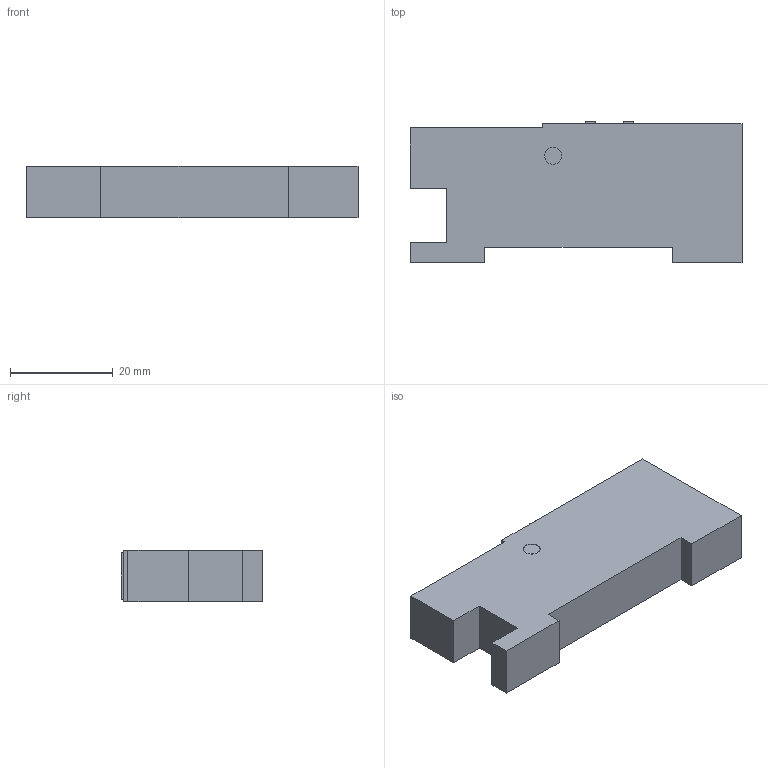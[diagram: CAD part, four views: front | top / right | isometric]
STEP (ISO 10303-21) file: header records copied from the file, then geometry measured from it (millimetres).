
FILE_DESCRIPTION (( 'STEP AP203' ), '1' );
FILE_NAME ('FX-CH.STEP', '2005-10-27T00:55:57', ( '' ), ( '' ), 'SwSTEP 2.0', 'SolidWorks 2004073', '' );
FILE_SCHEMA (( 'CONFIG_CONTROL_DESIGN' ));
Length unit declared in the file: millimetre
Products named in the file (1): FX-CH
Bounding box: 64.5 x 27.5 x 10 mm (x, y, z)
Volume: 15384.5 mm3; surface area: 5135.7 mm2
Topology: 1 solids, 1 shells, 54 faces, 132 edges, 88 vertices
Faces by surface type: plane 52, cylinder 2
Entity records: 1637 total; most frequent: CARTESIAN_POINT 275, ORIENTED_EDGE 264, DIRECTION 246, EDGE_CURVE 132, VECTOR 128, LINE 128, VERTEX_POINT 88, EDGE_LOOP 62
